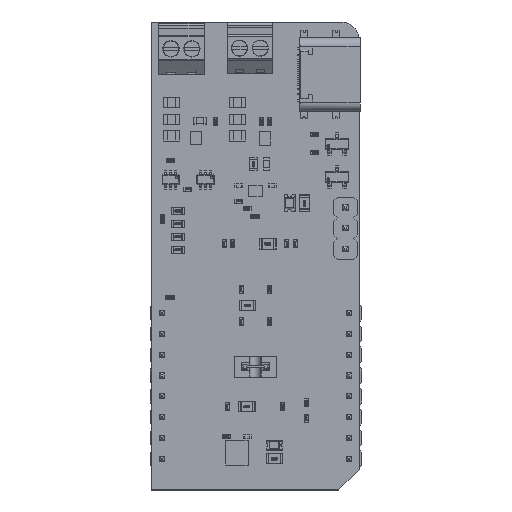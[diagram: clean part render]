
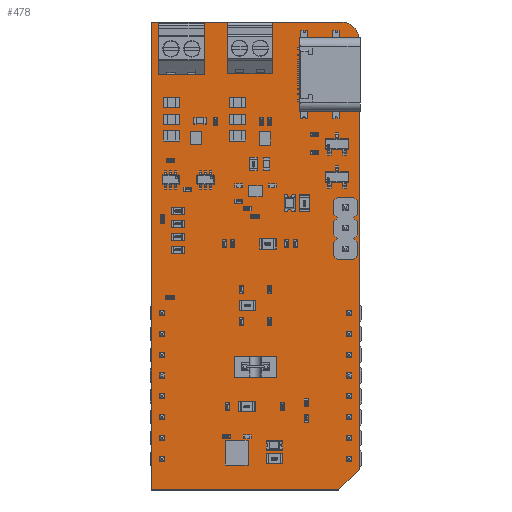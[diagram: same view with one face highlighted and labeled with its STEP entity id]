
A CAD part, top view. The second image highlights one B-rep face of the part: STEP entity #478.
In plain terms, the highlighted planar face has unit normal (0, 0, 1).
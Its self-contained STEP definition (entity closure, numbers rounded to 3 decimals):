
#283 = VERTEX_POINT('',#284);
#284 = CARTESIAN_POINT('',(-1.27,-3.81,0.));
#290 = EDGE_CURVE('',#283,#291,#293,.T.);
#291 = VERTEX_POINT('',#292);
#292 = CARTESIAN_POINT('',(-1.27,53.34,0.));
#293 = LINE('',#294,#295);
#294 = CARTESIAN_POINT('',(-1.27,-3.81,0.));
#295 = VECTOR('',#296,1.);
#296 = DIRECTION('',(0.,1.,0.));
#321 = EDGE_CURVE('',#291,#322,#324,.T.);
#322 = VERTEX_POINT('',#323);
#323 = CARTESIAN_POINT('',(21.844,53.34,0.));
#324 = LINE('',#325,#326);
#325 = CARTESIAN_POINT('',(-1.27,53.34,0.));
#326 = VECTOR('',#327,1.);
#327 = DIRECTION('',(1.,0.,0.));
#352 = EDGE_CURVE('',#322,#353,#355,.T.);
#353 = VERTEX_POINT('',#354);
#354 = CARTESIAN_POINT('',(24.13,51.054,0.));
#355 = CIRCLE('',#356,2.288);
#356 = AXIS2_PLACEMENT_3D('',#357,#358,#359);
#357 = CARTESIAN_POINT('',(21.842,51.052,0.));
#358 = DIRECTION('',(0.,0.,-1.));
#359 = DIRECTION('',(0.001,1.,0.));
#385 = EDGE_CURVE('',#353,#386,#388,.T.);
#386 = VERTEX_POINT('',#387);
#387 = CARTESIAN_POINT('',(24.13,-1.27,0.));
#388 = LINE('',#389,#390);
#389 = CARTESIAN_POINT('',(24.13,51.054,0.));
#390 = VECTOR('',#391,1.);
#391 = DIRECTION('',(0.,-1.,0.));
#416 = EDGE_CURVE('',#386,#417,#419,.T.);
#417 = VERTEX_POINT('',#418);
#418 = CARTESIAN_POINT('',(21.59,-3.81,0.));
#419 = LINE('',#420,#421);
#420 = CARTESIAN_POINT('',(24.13,-1.27,0.));
#421 = VECTOR('',#422,1.);
#422 = DIRECTION('',(-0.707,-0.707,0.));
#447 = EDGE_CURVE('',#417,#283,#448,.T.);
#448 = LINE('',#449,#450);
#449 = CARTESIAN_POINT('',(21.59,-3.81,0.));
#450 = VECTOR('',#451,1.);
#451 = DIRECTION('',(-1.,0.,0.));
#478 = ADVANCED_FACE('',(#479),#487,.T.);
#479 = FACE_BOUND('',#480,.F.);
#480 = EDGE_LOOP('',(#481,#482,#483,#484,#485,#486));
#481 = ORIENTED_EDGE('',*,*,#290,.T.);
#482 = ORIENTED_EDGE('',*,*,#321,.T.);
#483 = ORIENTED_EDGE('',*,*,#352,.T.);
#484 = ORIENTED_EDGE('',*,*,#385,.T.);
#485 = ORIENTED_EDGE('',*,*,#416,.T.);
#486 = ORIENTED_EDGE('',*,*,#447,.T.);
#487 = PLANE('',#488);
#488 = AXIS2_PLACEMENT_3D('',#489,#490,#491);
#489 = CARTESIAN_POINT('',(-1.27,-3.81,0.));
#490 = DIRECTION('',(0.,0.,1.));
#491 = DIRECTION('',(1.,0.,0.));
